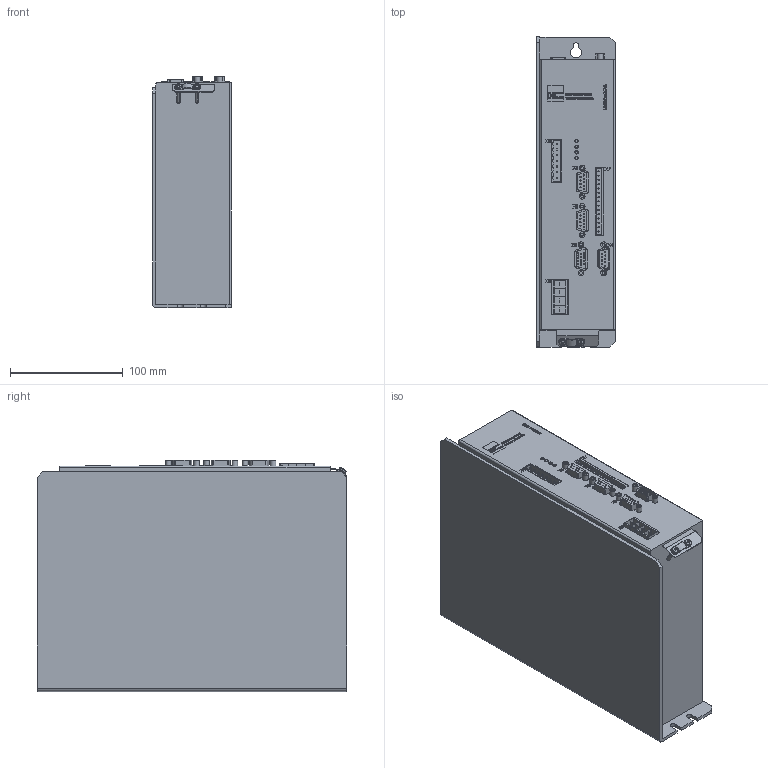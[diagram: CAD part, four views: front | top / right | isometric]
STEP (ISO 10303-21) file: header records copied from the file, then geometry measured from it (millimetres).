
FILE_DESCRIPTION(/* description */ ('Alibre Inc.'),/* implementation_level */ '2;1');
FILE_NAME(/* name */ 'export0',/* time_stamp */ '2011-02-11T08:30:00+01:00',/* author */ (''),/* organization */ ('ESR Pollmeier GmbH'),/* preprocessor_version */ 'ST-DEVELOPER v10',/* originating_system */ 'Alibre',/* authorisation */ '');
FILE_SCHEMA (('CONFIG_CONTROL_DESIGN'));
Length unit declared in the file: centimetre
Products named in the file (4): ID_1; ID_2; BÜLTE | rundkopfschrauben_M3_16; ID_3
Bounding box: 70 x 275 x 205 mm (x, y, z)
Surface area: 202863.1 mm2
Topology: 23 solids, 34 shells, 1880 faces, 4792 edges, 3184 vertices
Faces by surface type: plane 1084, bspline 593, cylinder 191, torus 4, sphere 4, cone 4
Full cylindrical faces by diameter (mm): 1 x66, 2.5 x20, 3 x4, 3.1 x2, 5 x20
Entity records: 55095 total; most frequent: CARTESIAN_POINT 14927, ORIENTED_EDGE 9276, DIRECTION 5249, EDGE_CURVE 4618, VERTEX_POINT 3146, VECTOR 3054, LINE 3054, EDGE_LOOP 2242
